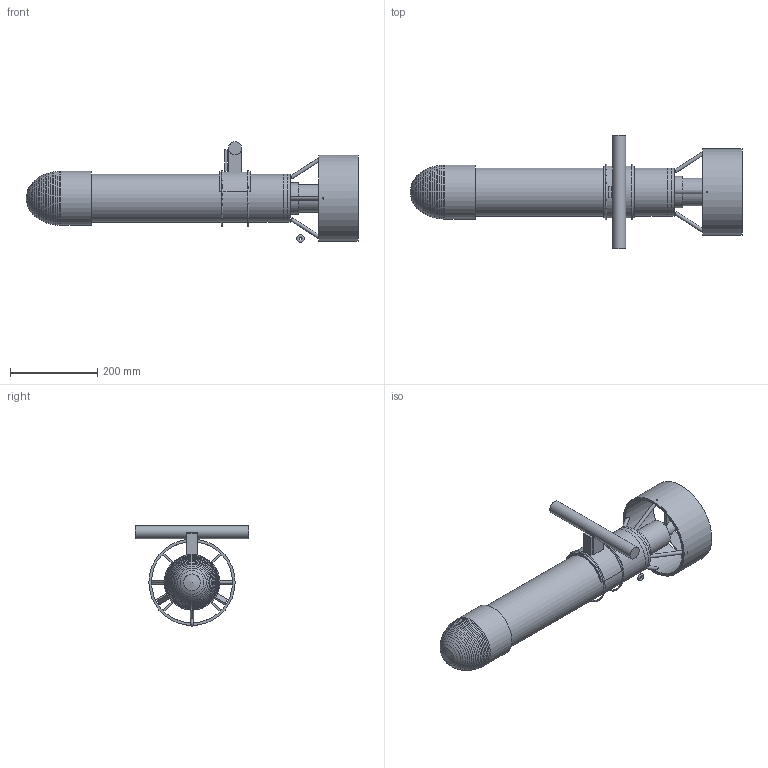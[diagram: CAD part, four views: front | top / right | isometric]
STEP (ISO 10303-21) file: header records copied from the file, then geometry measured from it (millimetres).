
FILE_DESCRIPTION(('Open CASCADE Model'),'2;1');
FILE_NAME('Open CASCADE Shape Model','2026-11-23T20:25:51',('Author'),( 'Open CASCADE'),'Open CASCADE STEP processor 7.9','Open CASCADE 7.9' ,'Unknown');
FILE_SCHEMA(('AUTOMOTIVE_DESIGN { 1 0 10303 214 1 1 1 1 }'));
Length unit declared in the file: millimetre
Products named in the file (33): b1b640c2-e773-11f1-926a-09a49a560799; dpv-nose; dpv-lead-trim; dpv-front-cap; dpv-hull-pipe; dpv-rear-plug; dpv-oring-1; dpv-oring-2; dpv-penetrator-1; dpv-penetrator-2; dpv-penetrator-3; dpv-schrader; dpv-relief; dpv-retainer-1; dpv-retainer-2; dpv-retainer-3; dpv-battery; dpv-bms; dpv-fuse; dpv-sled; dpv-esc-plate; dpv-esc; dpv-esp32; dpv-hall; dpv-motor-mount; dpv-motor; dpv-propeller; dpv-duct; dpv-handle; dpv-trigger; dpv-clamp-1; dpv-clamp-2; dpv-tow-eye
Assembly tree (32 placements, depth 2):
  b1b640c2-e773-11f1-926a-09a49a560799
    dpv-nose
    dpv-lead-trim
    dpv-front-cap
    dpv-hull-pipe
    dpv-rear-plug
    dpv-oring-1
    dpv-oring-2
    dpv-penetrator-1
    dpv-penetrator-2
    dpv-penetrator-3
    dpv-schrader
    dpv-relief
    dpv-retainer-1
    dpv-retainer-2
    dpv-retainer-3
    dpv-battery
    dpv-bms
    dpv-fuse
    dpv-sled
    dpv-esc-plate
    dpv-esc
    dpv-esp32
    dpv-hall
    dpv-motor-mount
    dpv-motor
    dpv-propeller
    dpv-duct
    dpv-handle
    dpv-trigger
    dpv-clamp-1
    dpv-clamp-2
    dpv-tow-eye
Bounding box: 762 x 260 x 231 mm (x, y, z)
Volume: 3351125.1 mm3; surface area: 974366.6 mm2
Topology: 45 solids, 45 shells, 324 faces, 605 edges, 388 vertices
Faces by surface type: plane 195, cylinder 84, cone 40, torus 5
Full cylindrical faces by diameter (mm): 5 x9, 6 x6, 6.4 x3, 8 x6, 10 x2, 11 x3, 12 x2, 21.55 x9, 30 x1, 32 x2, 41 x1, 42 x1, 48 x1, 63 x2, 66 x1, 72 x1, 76 x1, 80 x1, 84.8 x2, 91.2 x2, 95.8 x3, 96.6 x3, 96.8 x1, 110 x4, 124 x1, 186 x1, 198 x1
Entity records: 18955 total; most frequent: CARTESIAN_POINT 5506, DIRECTION 2556, ORIENTED_EDGE 1206, PCURVE 1206, DEFINITIONAL_REPRESENTATION 1206, LINE 1153, VECTOR 1153, AXIS2_PLACEMENT_3D 618
